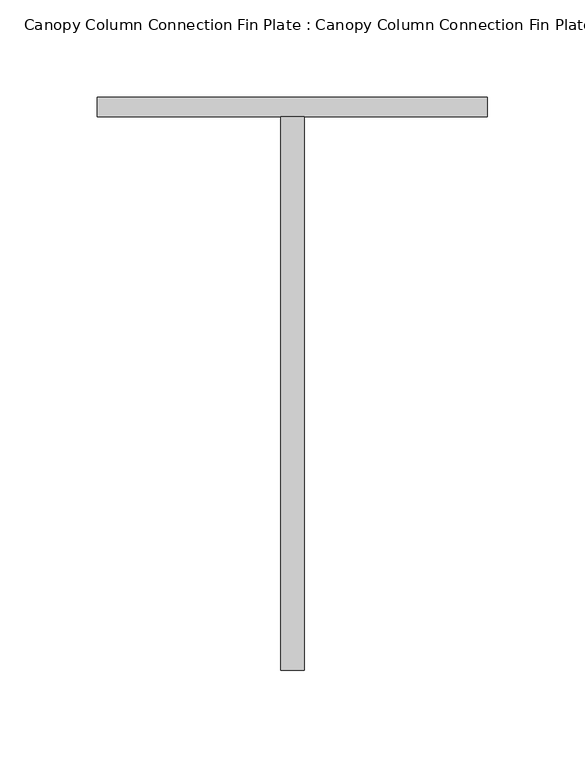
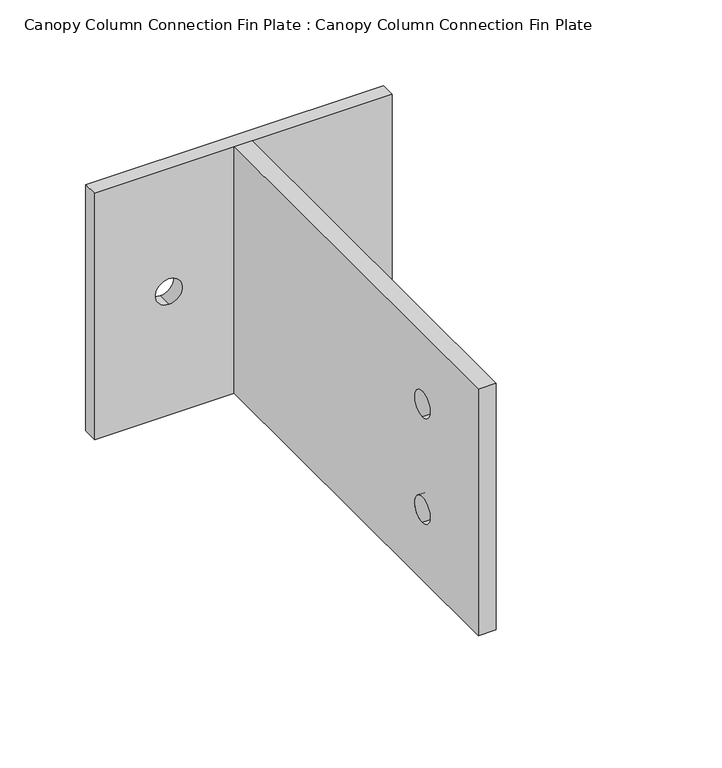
"""IFC4 building model written with IfcOpenShell, lengths in millimetres: proxy geometry, Canopy Column Connection Fin Plate : Canopy Column Connection Fin Plate."""

from ifc_helpers import new_model, si_unit, point, frame, frame_2d, origin, place, context, project, spatial, polyline, circle_curve, trimmed, segment, composite_curve, outline, extrude, source, transform, mapped, element, save


def canopy_column_connection_fin_plate_canopy_column_connection_61bcdf36(model_context):
    return source(origin(), model_context, "Body", "SweptSolid", [
        extrude(outline(polyline([(134.2, 0.0), (-149.8, 0.0), (-149.8, 175.0), (134.2, 175.0), (134.2, 0.0)]), holes=[composite_curve([segment(trimmed(circle_curve(frame_2d((-84.8, 125.0)), 8.9998703), [point((-84.8, 116.0001297))], [point((-84.8, 133.9998703))], True, "CARTESIAN"), True, "CONTINUOUS"), segment(trimmed(circle_curve(frame_2d((-84.8, 125.0)), 8.9998703), [point((-84.8, 133.9998703))], [point((-84.8, 116.0001297))], True, "CARTESIAN"), True, "CONTINUOUS")], self_intersect=False), composite_curve([segment(trimmed(circle_curve(frame_2d((-84.8, 50.0)), 8.9998703), [point((-84.8, 41.0001297))], [point((-84.8, 58.9998703))], True, "CARTESIAN"), True, "CONTINUOUS"), segment(trimmed(circle_curve(frame_2d((-84.8, 50.0)), 8.9998703), [point((-84.8, 58.9998703))], [point((-84.8, 41.0001297))], True, "CARTESIAN"), True, "CONTINUOUS")], self_intersect=False)]), frame((-6.0, 0.0, 0.0), z_axis=(1.0, 0.0, 0.0), x_axis=(0.0, 1.0, 0.0)), (0.0, 0.0, 1.0), 12.0),
        extrude(outline(polyline([(175.0, -100.0), (0.0, -100.0), (0.0, 100.0), (175.0, 100.0), (175.0, -100.0)]), holes=[composite_curve([segment(trimmed(circle_curve(frame_2d((87.5, -50.0)), 8.9998703), [point((78.5001297, -50.0))], [point((96.4998703, -50.0))], True, "CARTESIAN"), True, "CONTINUOUS"), segment(trimmed(circle_curve(frame_2d((87.5, -50.0)), 8.9998703), [point((96.4998703, -50.0))], [point((78.5001297, -50.0))], True, "CARTESIAN"), True, "CONTINUOUS")], self_intersect=False), composite_curve([segment(trimmed(circle_curve(frame_2d((87.5, 50.0)), 8.9998703), [point((78.5001297, 50.0))], [point((96.4998703, 50.0))], True, "CARTESIAN"), True, "CONTINUOUS"), segment(trimmed(circle_curve(frame_2d((87.5, 50.0)), 8.9998703), [point((96.4998703, 50.0))], [point((78.5001297, 50.0))], True, "CARTESIAN"), True, "CONTINUOUS")], self_intersect=False)]), frame((0.0, 134.2, 0.0), z_axis=(0.0, 1.0, 0.0), x_axis=(0.0, 0.0, 1.0)), (0.0, 0.0, 1.0), 10.0),
    ])


if __name__ == "__main__":
    model = new_model("IFC4")
    model_context = context("Model", 3, world=origin())
    ifc_project = project(units=[si_unit("LENGTHUNIT", "METRE", prefix="MILLI")], contexts=[model_context])
    site = spatial("IfcSite", under=ifc_project)
    building = spatial("IfcBuilding", under=site)
    placement = place(None, origin())
    canopy_column_connection_fin_plate_canopy_column_connection_shape = canopy_column_connection_fin_plate_canopy_column_connection_61bcdf36(model_context)
    element("IfcBuildingElementProxy", 1, Name="Canopy Column Connection Fin Plate : Canopy Column Connection Fin Plate", ObjectType="Canopy Column Connection Fin Plate : Canopy Column Connection Fin Plate", at=placement, inside=building, context=model_context, shape_type="MappedRepresentation", body=[
        mapped(canopy_column_connection_fin_plate_canopy_column_connection_shape, transform((0.0, 0.0, 0.0), x_axis=(1.0, 0.0, 0.0), y_axis=(0.0, 1.0, 0.0), z_axis=(0.0, 0.0, 1.0))),
    ])
    save(model, "model.ifc")
